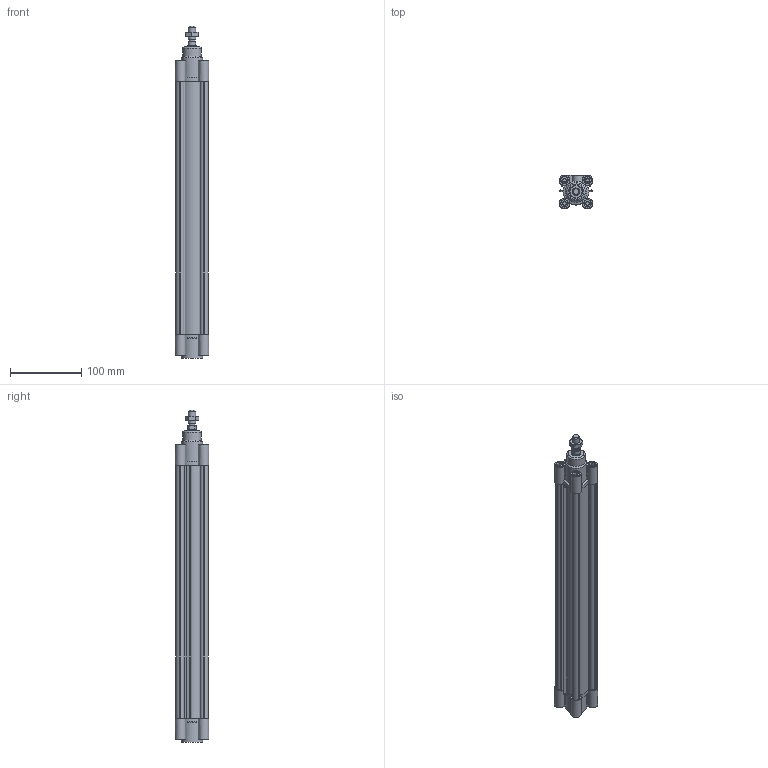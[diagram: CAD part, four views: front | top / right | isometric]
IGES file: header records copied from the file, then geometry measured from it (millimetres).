
Global section: file name: No Iges File Name specified; native system: Autodesk Inventor 2012; preprocessor: AutoDesk Inventor Iges Exporter R2012; author: pilonfr1; date: 20120128.095042; units: millimetre
Bounding box: 47 x 47 x 466.5 mm (x, y, z)
Volume: 366978 mm3; surface area: 218238.3 mm2
Topology: 5 solids, 5 shells, 316 faces, 788 edges, 522 vertices
Faces by surface type: plane 200, cylinder 54, revolution 39, cone 22, torus 1
Full cylindrical faces by diameter (mm): 8.8 x1, 10 x9, 11.5 x1, 12 x1, 26 x1, 30 x2, 32 x3
